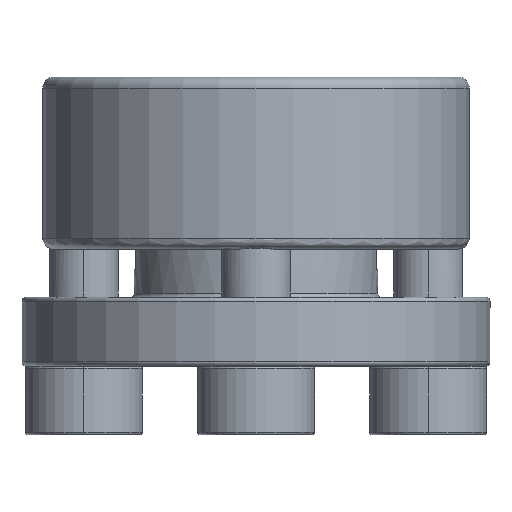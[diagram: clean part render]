
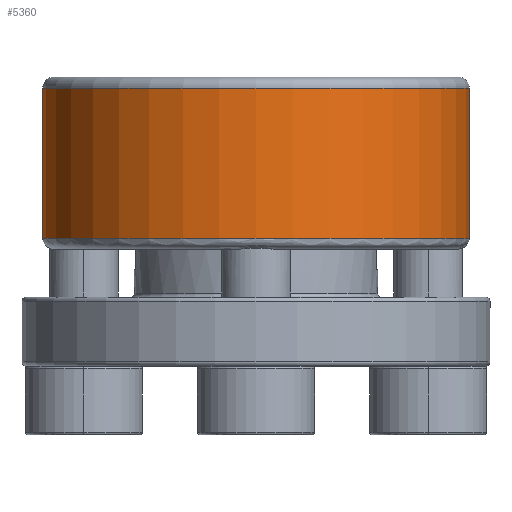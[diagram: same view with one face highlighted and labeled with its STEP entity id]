
A CAD part, left-side view. The second image highlights one B-rep face of the part: STEP entity #5360.
In plain terms, the highlighted cylindrical face has radius 15.5 mm (diameter 31 mm), a partial arc.
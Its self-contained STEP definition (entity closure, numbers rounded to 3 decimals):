
#12 = DIRECTION ( 'NONE',  ( 0., 1., 0. ) ) ;
#81 = ORIENTED_EDGE ( 'NONE', *, *, #3052, .T. ) ;
#93 = ORIENTED_EDGE ( 'NONE', *, *, #3056, .T. ) ;
#98 = ORIENTED_EDGE ( 'NONE', *, *, #3057, .F. ) ;
#102 = ORIENTED_EDGE ( 'NONE', *, *, #3053, .F. ) ;
#1102 = CARTESIAN_POINT ( 'NONE',  ( 0., 0., -0.8 ) ) ;
#1582 = DIRECTION ( 'NONE',  ( 0., 1., 0. ) ) ;
#1583 = DIRECTION ( 'NONE',  ( 0., 0., -1. ) ) ;
#1586 = CARTESIAN_POINT ( 'NONE',  ( 0., 0., -12.9 ) ) ;
#1689 = CARTESIAN_POINT ( 'NONE',  ( 0., 15.5, -0.8 ) ) ;
#1715 = CARTESIAN_POINT ( 'NONE',  ( 0., -15.5, -11.7 ) ) ;
#1721 = CARTESIAN_POINT ( 'NONE',  ( 0., 15.5, -11.7 ) ) ;
#1722 = CARTESIAN_POINT ( 'NONE',  ( 0., -15.5, -0.8 ) ) ;
#1861 = EDGE_LOOP ( 'NONE', ( #102, #81, #93, #98 ) ) ;
#1949 = CARTESIAN_POINT ( 'NONE',  ( 0., 15.5, -12.9 ) ) ;
#1950 = DIRECTION ( 'NONE',  ( 0., 0., -1. ) ) ;
#1951 = CARTESIAN_POINT ( 'NONE',  ( 0., 0., -11.7 ) ) ;
#1952 = DIRECTION ( 'NONE',  ( 0., 0., -1. ) ) ;
#1953 = DIRECTION ( 'NONE',  ( 0., 1., 0. ) ) ;
#3013 = DIRECTION ( 'NONE',  ( 0., 0., -1. ) ) ;
#3015 = CARTESIAN_POINT ( 'NONE',  ( 0., -15.5, -12.9 ) ) ;
#3052 = EDGE_CURVE ( 'NONE', #5525, #5435, #4772, .T. ) ;
#3053 = EDGE_CURVE ( 'NONE', #5525, #5512, #4776, .T. ) ;
#3056 = EDGE_CURVE ( 'NONE', #5435, #5524, #4781, .T. ) ;
#3057 = EDGE_CURVE ( 'NONE', #5512, #5524, #4783, .T. ) ;
#3251 = AXIS2_PLACEMENT_3D ( 'NONE', #1102, #5389, #12 ) ;
#3253 = AXIS2_PLACEMENT_3D ( 'NONE', #1951, #1952, #1953 ) ;
#3873 = FACE_OUTER_BOUND ( 'NONE', #1861, .T. ) ;
#3875 = CYLINDRICAL_SURFACE ( 'NONE', #4385, 15.5 ) ;
#4385 = AXIS2_PLACEMENT_3D ( 'NONE', #1586, #1583, #1582 ) ;
#4772 = CIRCLE ( 'NONE', #3251, 15.5 ) ;
#4776 = LINE ( 'NONE', #3015, #4779 ) ;
#4779 = VECTOR ( 'NONE', #3013, 1000. ) ;
#4781 = LINE ( 'NONE', #1949, #4784 ) ;
#4783 = CIRCLE ( 'NONE', #3253, 15.5 ) ;
#4784 = VECTOR ( 'NONE', #1950, 1000. ) ;
#5360 = ADVANCED_FACE ( 'NONE', ( #3873 ), #3875, .T. ) ;
#5389 = DIRECTION ( 'NONE',  ( 0., 0., -1. ) ) ;
#5435 = VERTEX_POINT ( 'NONE', #1689 ) ;
#5512 = VERTEX_POINT ( 'NONE', #1715 ) ;
#5524 = VERTEX_POINT ( 'NONE', #1721 ) ;
#5525 = VERTEX_POINT ( 'NONE', #1722 ) ;
